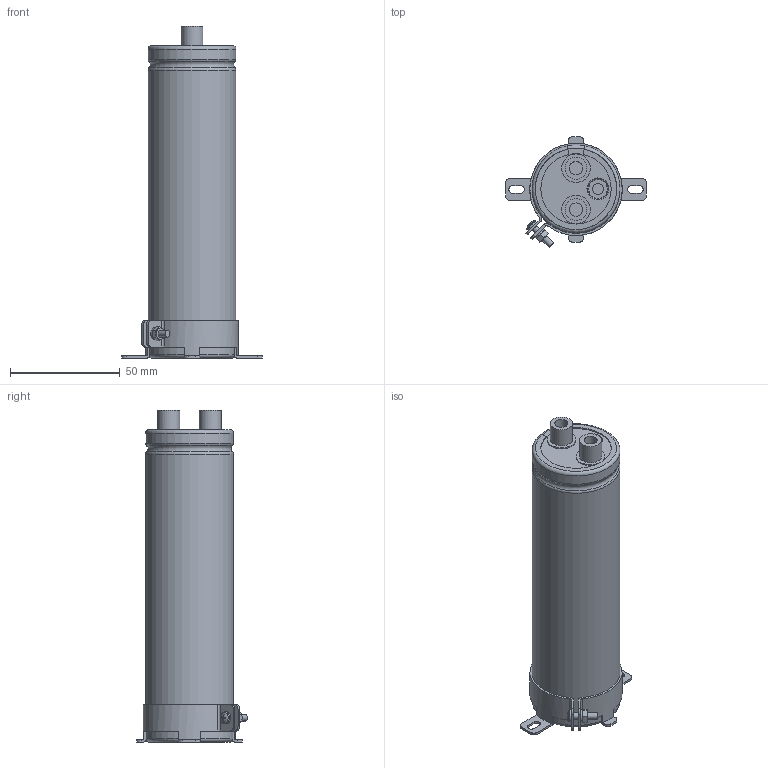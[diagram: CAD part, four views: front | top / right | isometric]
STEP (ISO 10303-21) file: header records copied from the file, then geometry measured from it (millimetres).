
FILE_DESCRIPTION(/* description */ (''),/* implementation_level */ '2;1');
FILE_NAME(/* name */ '40x142_Screw.stp',/* time_stamp */ '2017-09-14T21:38:47+09:00',/* author */ (''),/* organization */ (''),/* preprocessor_version */ 'ST-DEVELOPER v16',/* originating_system */ 'SIEMENS PLM Software NX 11.0',/* authorisation */ '');
FILE_SCHEMA (('AUTOMOTIVE_DESIGN { 1 0 10303 214 3 1 1 1 }'));
Length unit declared in the file: millimetre
Products named in the file (1): 40x142_Screw
Bounding box: 64 x 50.36 x 151 mm (x, y, z)
Volume: 180015 mm3; surface area: 63085.6 mm2
Topology: 9 solids, 9 shells, 256 faces, 636 edges, 409 vertices
Faces by surface type: plane 109, cylinder 65, torus 50, cone 31, sphere 1
Full cylindrical faces by diameter (mm): 3 x5, 5 x4, 5.5 x2, 6 x2, 10 x4, 13 x2, 38.8 x2
Entity records: 8385 total; most frequent: CARTESIAN_POINT 2097, DIRECTION 1286, ORIENTED_EDGE 1204, EDGE_CURVE 602, AXIS2_PLACEMENT_3D 541, VERTEX_POINT 404, EDGE_LOOP 310, CIRCLE 284
